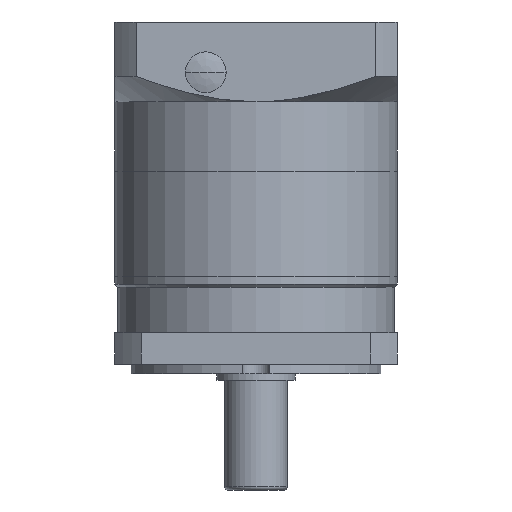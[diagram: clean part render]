
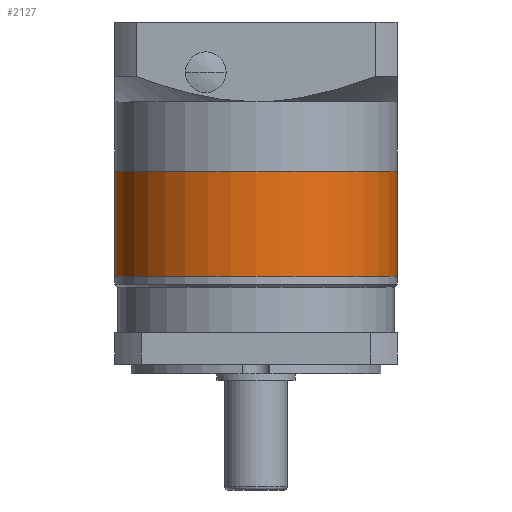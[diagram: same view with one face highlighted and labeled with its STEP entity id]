
A CAD part, front view. The second image highlights one B-rep face of the part: STEP entity #2127.
In plain terms, the highlighted cylindrical face has radius 45 mm (diameter 90 mm), a full revolution.
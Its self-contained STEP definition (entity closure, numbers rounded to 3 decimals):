
#2127=ADVANCED_FACE('',(#4645,#4646),#2526,.T.);
#2526=CYLINDRICAL_SURFACE('',#17361,45.);
#4645=FACE_BOUND('',#5588,.T.);
#4646=FACE_BOUND('',#5589,.T.);
#5588=EDGE_LOOP('',(#9566));
#5589=EDGE_LOOP('',(#9567));
#9566=ORIENTED_EDGE('',*,*,#14203,.T.);
#9567=ORIENTED_EDGE('',*,*,#14209,.T.);
#11971=VERTEX_POINT('',#32773);
#11977=VERTEX_POINT('',#32786);
#14203=EDGE_CURVE('',#11971,#11971,#15634,.T.);
#14209=EDGE_CURVE('',#11977,#11977,#15640,.T.);
#15634=CIRCLE('',#17352,45.);
#15640=CIRCLE('',#17359,45.);
#17352=AXIS2_PLACEMENT_3D('',#32772,#21088,#21089);
#17359=AXIS2_PLACEMENT_3D('',#32785,#21102,#21103);
#17361=AXIS2_PLACEMENT_3D('',#32788,#21106,#21107);
#21088=DIRECTION('',(0.,0.,1.));
#21089=DIRECTION('',(1.,0.,0.));
#21102=DIRECTION('',(0.,0.,-1.));
#21103=DIRECTION('',(1.,0.,0.));
#21106=DIRECTION('',(0.,0.,-1.));
#21107=DIRECTION('',(-1.,0.,0.));
#32772=CARTESIAN_POINT('',(-0.042,-1.945,31.));
#32773=CARTESIAN_POINT('',(44.958,-1.945,31.));
#32785=CARTESIAN_POINT('',(-0.042,-1.945,64.5));
#32786=CARTESIAN_POINT('',(44.958,-1.945,64.5));
#32788=CARTESIAN_POINT('',(-0.042,-1.945,64.5));
